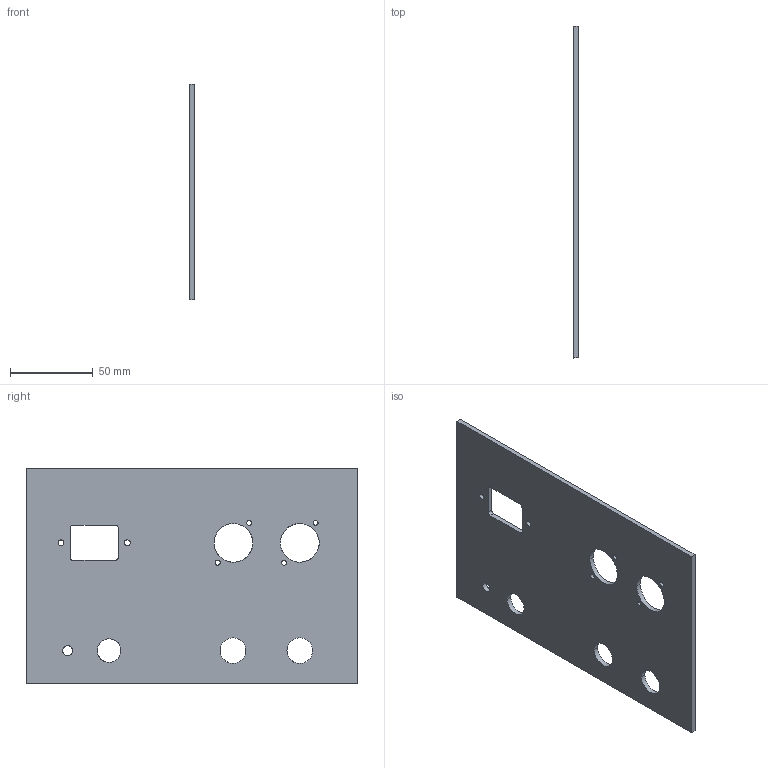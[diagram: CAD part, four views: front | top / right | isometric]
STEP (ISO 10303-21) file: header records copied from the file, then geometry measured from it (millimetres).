
FILE_DESCRIPTION(/* description */ (''),/* implementation_level */ '2;1');
FILE_NAME(/* name */ '1.frame-bottom#1.6#la-pan-7',/* time_stamp */ '2014-12-01T20:11:29+01:00',/* author */ (''),/* organization */ (''),/* preprocessor_version */ 'ST-DEVELOPER v14',/* originating_system */ '',/* authorisation */ '');
FILE_SCHEMA (('AUTOMOTIVE_DESIGN'));
Length unit declared in the file: millimetre
Products named in the file (1): Document
Bounding box: 3 x 200 x 130 mm (x, y, z)
Volume: 71741.1 mm3; surface area: 51205.4 mm2
Topology: 1 solids, 1 shells, 38 faces, 108 edges, 72 vertices
Faces by surface type: bspline 32, plane 6
Entity records: 2826 total; most frequent: CARTESIAN_POINT 1528, ORIENTED_EDGE 216, PCURVE 216, DEFINITIONAL_REPRESENTATION 216, B_SPLINE_CURVE_WITH_KNOTS 144, SURFACE_CURVE 108, EDGE_CURVE 108, VERTEX_POINT 72
